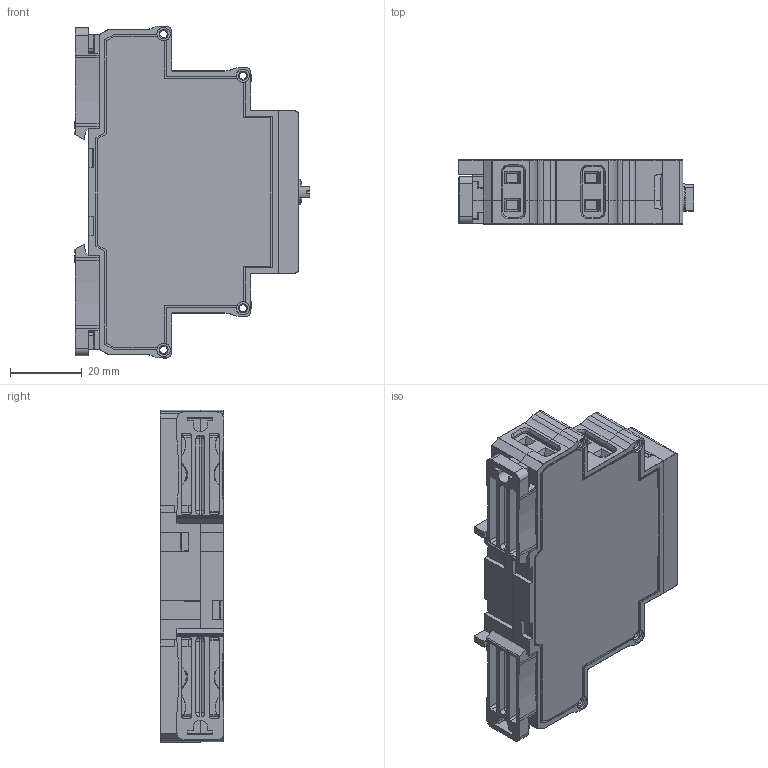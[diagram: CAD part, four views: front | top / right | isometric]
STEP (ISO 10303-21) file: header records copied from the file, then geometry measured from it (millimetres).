
FILE_DESCRIPTION(('STEP AP242'), '1');
FILE_NAME('ﾑ碚濱ﾐﾊﾍ-3-18-15', '', ('UNSPECIFIED'), ('UNSPECIFIED'), 'C3D Converter', 'C3D Toolkit', '');
FILE_SCHEMA(('AP242_MANAGED_MODEL_BASED_3D_ENGINEERING_MIM_LF { 1 0 10303 442 1 1 4 }'));
Length unit declared in the file: millimetre
Products named in the file (17): Case_UC1-2sR-2024_SimpleModel_6mm; Case_UC1-2sR-2024_SimpleModel_11mm; Case_UC1-2sR_Face_2024_18mm__FR.FP.0000023; Case13-18-23mm_2step_Lock_v01a_Build20140909_1552; DG128-5.08_Configurable_5.08x3; R-knob_2017_Hex2mm__Џｮ гｬｮｫзｭЁо; РКН-3-15-15 mark L2-L3; РКН-3-15-15 mark L1-N; РКН-3-15-15 mark 12-11-14; РКН-3-15-15 mark 22-21-24
Assembly tree (22 placements, depth 2):
  (unnamed)
    Case_UC1-2sR-2024_SimpleModel_6mm
    Case_UC1-2sR-2024_SimpleModel_11mm
    Case_UC1-2sR_Face_2024_18mm__FR.FP.0000023
    Case13-18-23mm_2step_Lock_v01a_Build20140909_1552  x2
    (unnamed)  x2
    DG128-5.08_Configurable_5.08x3  x2
    R-knob_2017_Hex2mm__Џｮ гｬｮｫзｭЁо
    (unnamed)  x3
    (unnamed)  x2
    (unnamed)
    РКН-3-15-15 mark L2-L3
    РКН-3-15-15 mark L1-N
    РКН-3-15-15 mark 12-11-14
    РКН-3-15-15 mark 22-21-24
    (unnamed)
    (unnamed)
Bounding box: 65.63 x 17.75 x 92.4 mm (x, y, z)
Volume: 26270.4 mm3; surface area: 37849.1 mm2
Topology: 49 solids, 49 shells, 3599 faces, 9933 edges, 6437 vertices
Faces by surface type: plane 2793, cylinder 396, extrusion 129, torus 108, bspline 88, cone 49, sphere 36
Full cylindrical faces by diameter (mm): 1.238 x6, 2.1 x14, 2.2 x6, 3.7 x8, 3.9 x10, 4.5 x1, 5 x1
Entity records: 136964 total; most frequent: CARTESIAN_POINT 25671, ORIENTED_EDGE 18378, DIRECTION 15794, EDGE_CURVE 9189, VECTOR 7808, LINE 7679, VERTEX_POINT 6018, AXIS2_PLACEMENT_3D 3993
